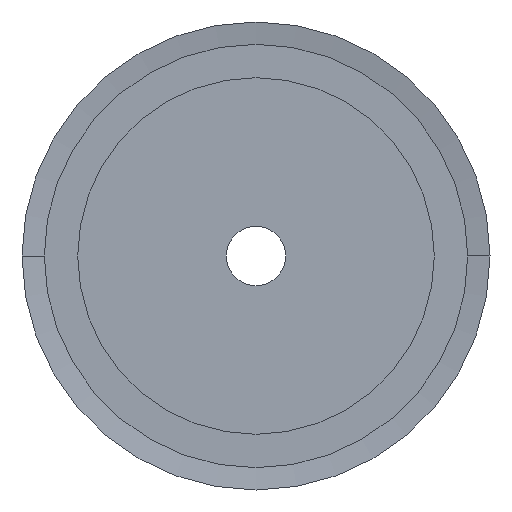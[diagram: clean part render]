
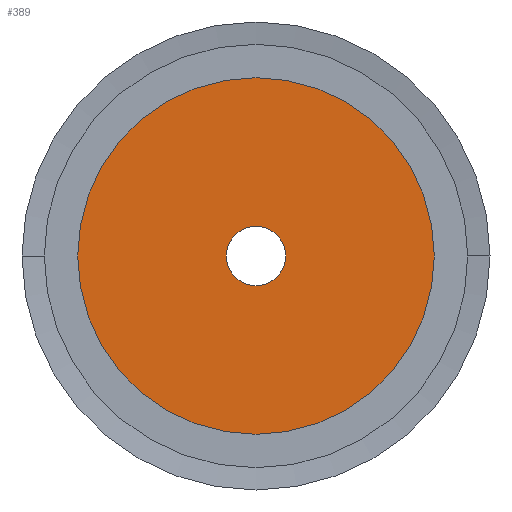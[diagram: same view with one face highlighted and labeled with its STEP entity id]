
A CAD part, left-side view. The second image highlights one B-rep face of the part: STEP entity #389.
In plain terms, the highlighted planar face has unit normal (-1, 0, 0).
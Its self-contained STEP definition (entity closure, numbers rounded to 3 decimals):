
#389 = ADVANCED_FACE( '', ( #1025, #1026 ), #1027, .T. );
#1025 = FACE_BOUND( '', #1662, .T. );
#1026 = FACE_OUTER_BOUND( '', #1663, .T. );
#1027 = PLANE( '', #1664 );
#1662 = EDGE_LOOP( '', ( #4435, #4436 ) );
#1663 = EDGE_LOOP( '', ( #4437, #4438 ) );
#1664 = AXIS2_PLACEMENT_3D( '', #4439, #4440, #4441 );
#4435 = ORIENTED_EDGE( '', *, *, #4481, .T. );
#4436 = ORIENTED_EDGE( '', *, *, #4477, .T. );
#4437 = ORIENTED_EDGE( '', *, *, #4445, .T. );
#4438 = ORIENTED_EDGE( '', *, *, #5357, .T. );
#4439 = CARTESIAN_POINT( '', ( 0., 12., 0. ) );
#4440 = DIRECTION( '', ( -1., 0., 0. ) );
#4441 = DIRECTION( '', ( 0., 1., 0. ) );
#4445 = EDGE_CURVE( '', #5359, #5363, #5365, .T. );
#4477 = EDGE_CURVE( '', #5423, #5420, #5424, .T. );
#4481 = EDGE_CURVE( '', #5420, #5423, #5429, .T. );
#5357 = EDGE_CURVE( '', #5363, #5359, #6881, .T. );
#5359 = VERTEX_POINT( '', #6883 );
#5363 = VERTEX_POINT( '', #6888 );
#5365 = CIRCLE( '', #6891, 24. );
#5420 = VERTEX_POINT( '', #6962 );
#5423 = VERTEX_POINT( '', #6966 );
#5424 = CIRCLE( '', #6967, 4. );
#5429 = CIRCLE( '', #6973, 4. );
#6881 = CIRCLE( '', #8929, 24. );
#6883 = CARTESIAN_POINT( '', ( 0., 24., 0. ) );
#6888 = CARTESIAN_POINT( '', ( 0., -24., 0. ) );
#6891 = AXIS2_PLACEMENT_3D( '', #8935, #8936, #8937 );
#6962 = CARTESIAN_POINT( '', ( 0., 4., 0. ) );
#6966 = CARTESIAN_POINT( '', ( 0., -4., 0. ) );
#6967 = AXIS2_PLACEMENT_3D( '', #8997, #8998, #8999 );
#6973 = AXIS2_PLACEMENT_3D( '', #9007, #9008, #9009 );
#8929 = AXIS2_PLACEMENT_3D( '', #10627, #10628, #10629 );
#8935 = CARTESIAN_POINT( '', ( 0., 0., 0. ) );
#8936 = DIRECTION( '', ( -1., 0., 0. ) );
#8937 = DIRECTION( '', ( 0., 1., 0. ) );
#8997 = CARTESIAN_POINT( '', ( 0., 0., 0. ) );
#8998 = DIRECTION( '', ( 1., 0., 0. ) );
#8999 = DIRECTION( '', ( 0., 1., 0. ) );
#9007 = CARTESIAN_POINT( '', ( 0., 0., 0. ) );
#9008 = DIRECTION( '', ( 1., 0., 0. ) );
#9009 = DIRECTION( '', ( 0., 1., 0. ) );
#10627 = CARTESIAN_POINT( '', ( 0., 0., 0. ) );
#10628 = DIRECTION( '', ( -1., 0., 0. ) );
#10629 = DIRECTION( '', ( 0., 1., 0. ) );
